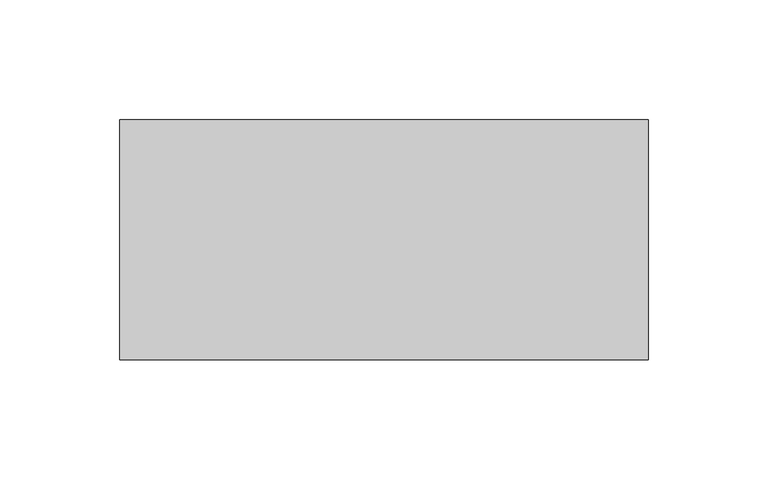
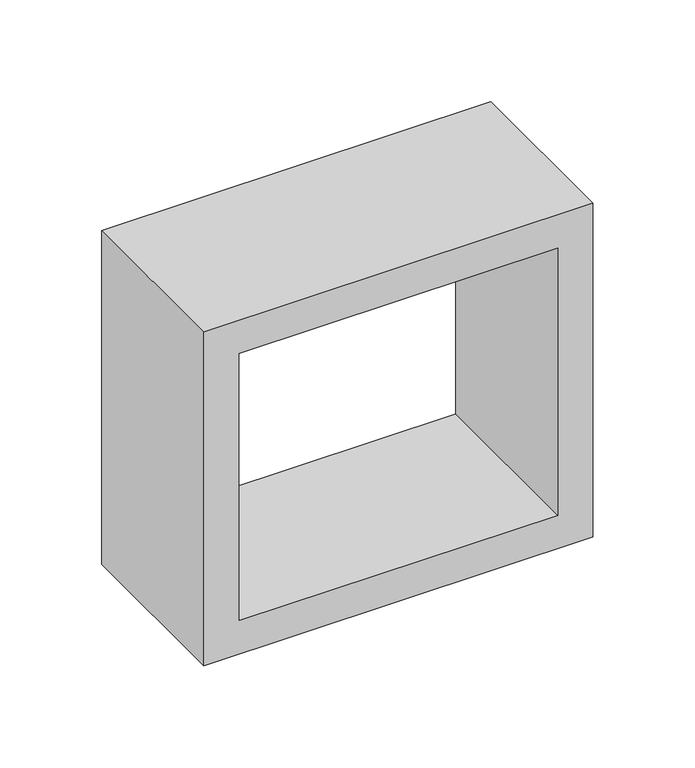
"""IFC4 building model written with IfcOpenShell, lengths in millimetres: plate geometry, pnl - ELEMENTO VAZADO QUADRICULADO : e = 10."""

from ifc_helpers import new_model, si_unit, frame, origin, place, context, project, spatial, polyline, outline, extrude, source, transform, mapped, element, save


def plate_6f004fc1(model_context):
    return source(origin(), model_context, "Body", "SweptSolid", [
        extrude(outline(polyline([(200.0, -110.153451), (0.0, -110.153451), (0.0, 110.153451), (200.0, 110.153451), (200.0, -110.153451)]), holes=[polyline([(180.0, -90.153451), (180.0, 90.153451), (20.0, 90.153451), (20.0, -90.153451), (180.0, -90.153451)])]), frame((0.0, -50.0, 0.0), z_axis=(0.0, 1.0, 0.0), x_axis=(0.0, 0.0, 1.0)), (0.0, 0.0, 1.0), 100.0),
    ])


if __name__ == "__main__":
    model = new_model("IFC4")
    model_context = context("Model", 3, world=origin())
    ifc_project = project(units=[si_unit("LENGTHUNIT", "METRE", prefix="MILLI")], contexts=[model_context])
    site = spatial("IfcSite", under=ifc_project)
    building = spatial("IfcBuilding", under=site)
    placement = place(None, origin())
    plate_shape = plate_6f004fc1(model_context)
    element("IfcPlate", 1, ObjectType="pnl - ELEMENTO VAZADO QUADRICULADO : e = 10", at=placement, inside=building, context=model_context, shape_type="MappedRepresentation", body=[
        mapped(plate_shape, transform((0.0, 0.0, 0.0), x_axis=(1.0, 0.0, 0.0), y_axis=(0.0, 1.0, 0.0), z_axis=(0.0, 0.0, 1.0))),
    ])
    save(model, "model.ifc")
